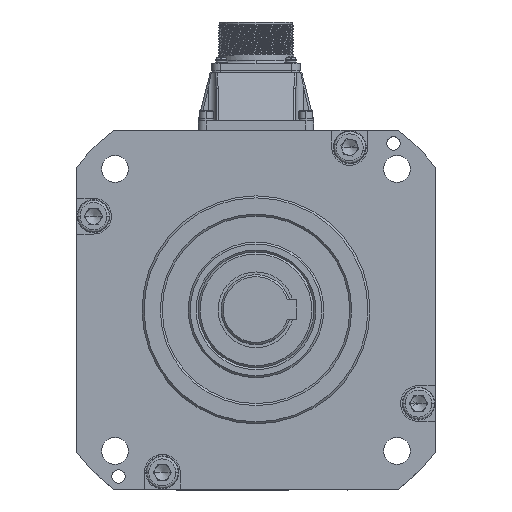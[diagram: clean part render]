
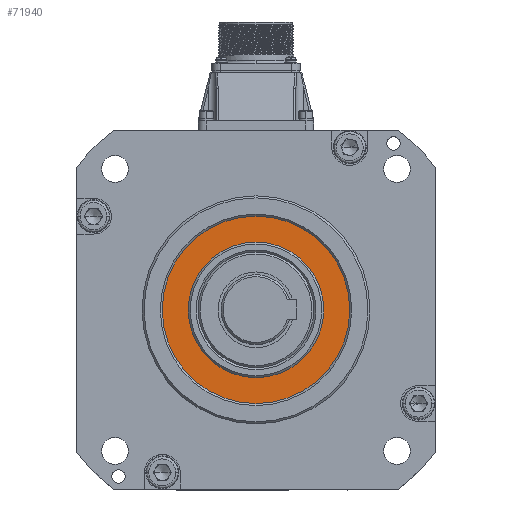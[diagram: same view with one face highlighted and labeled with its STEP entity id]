
A CAD part, top view. The second image highlights one B-rep face of the part: STEP entity #71940.
In plain terms, the highlighted planar face has unit normal (0, 0, 1).
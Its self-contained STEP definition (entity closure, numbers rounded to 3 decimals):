
#1762 = AXIS2_PLACEMENT_3D ( 'NONE', #34140, #90752, #42287 ) ;
#1986 = VERTEX_POINT ( 'NONE', #81259 ) ;
#2877 = EDGE_LOOP ( 'NONE', ( #10951, #89486 ) ) ;
#7194 = CARTESIAN_POINT ( 'NONE',  ( 181.332, 170.805, 271.588 ) ) ;
#10563 = DIRECTION ( 'NONE',  ( 0., 0., 1. ) ) ;
#10701 = FACE_BOUND ( 'NONE', #2877, .T. ) ;
#10951 = ORIENTED_EDGE ( 'NONE', *, *, #74315, .T. ) ;
#12549 = DIRECTION ( 'NONE',  ( 1., 0., 0. ) ) ;
#23572 = DIRECTION ( 'NONE',  ( 0., 0., -1. ) ) ;
#28166 = CIRCLE ( 'NONE', #45473, 47. ) ;
#28205 = CIRCLE ( 'NONE', #76817, 34. ) ;
#29724 = FACE_OUTER_BOUND ( 'NONE', #81144, .T. ) ;
#29894 = CIRCLE ( 'NONE', #1762, 34. ) ;
#31560 = VERTEX_POINT ( 'NONE', #85768 ) ;
#34140 = CARTESIAN_POINT ( 'NONE',  ( 134.332, 170.805, 271.588 ) ) ;
#35985 = EDGE_CURVE ( 'NONE', #1986, #31560, #29894, .T. ) ;
#36616 = PLANE ( 'NONE',  #42159 ) ;
#37929 = DIRECTION ( 'NONE',  ( 0., 0., 1. ) ) ;
#38790 = ORIENTED_EDGE ( 'NONE', *, *, #52309, .T. ) ;
#42159 = AXIS2_PLACEMENT_3D ( 'NONE', #92910, #61044, #12549 ) ;
#42287 = DIRECTION ( 'NONE',  ( -1., 0., 0. ) ) ;
#45473 = AXIS2_PLACEMENT_3D ( 'NONE', #86372, #37929, #94541 ) ;
#45822 = EDGE_CURVE ( 'NONE', #47668, #79230, #46180, .T. ) ;
#46180 = CIRCLE ( 'NONE', #64069, 47. ) ;
#47668 = VERTEX_POINT ( 'NONE', #52299 ) ;
#52299 = CARTESIAN_POINT ( 'NONE',  ( 87.332, 170.805, 271.588 ) ) ;
#52309 = EDGE_CURVE ( 'NONE', #79230, #47668, #28166, .T. ) ;
#59042 = CARTESIAN_POINT ( 'NONE',  ( 134.332, 170.805, 271.588 ) ) ;
#60191 = ORIENTED_EDGE ( 'NONE', *, *, #45822, .T. ) ;
#61044 = DIRECTION ( 'NONE',  ( 0., 0., 1. ) ) ;
#64069 = AXIS2_PLACEMENT_3D ( 'NONE', #59042, #10563, #67154 ) ;
#67154 = DIRECTION ( 'NONE',  ( -1., 0., 0. ) ) ;
#71940 = ADVANCED_FACE ( 'NONE', ( #29724, #10701 ), #36616, .T. ) ;
#72011 = CARTESIAN_POINT ( 'NONE',  ( 134.332, 170.805, 271.588 ) ) ;
#74315 = EDGE_CURVE ( 'NONE', #31560, #1986, #28205, .T. ) ;
#76817 = AXIS2_PLACEMENT_3D ( 'NONE', #72011, #23572, #80104 ) ;
#79230 = VERTEX_POINT ( 'NONE', #7194 ) ;
#80104 = DIRECTION ( 'NONE',  ( -1., 0., 0. ) ) ;
#81144 = EDGE_LOOP ( 'NONE', ( #60191, #38790 ) ) ;
#81259 = CARTESIAN_POINT ( 'NONE',  ( 168.332, 170.805, 271.588 ) ) ;
#85768 = CARTESIAN_POINT ( 'NONE',  ( 100.332, 170.805, 271.588 ) ) ;
#86372 = CARTESIAN_POINT ( 'NONE',  ( 134.332, 170.805, 271.588 ) ) ;
#89486 = ORIENTED_EDGE ( 'NONE', *, *, #35985, .T. ) ;
#90752 = DIRECTION ( 'NONE',  ( 0., 0., -1. ) ) ;
#92910 = CARTESIAN_POINT ( 'NONE',  ( 134.332, 170.805, 271.588 ) ) ;
#94541 = DIRECTION ( 'NONE',  ( -1., 0., 0. ) ) ;
